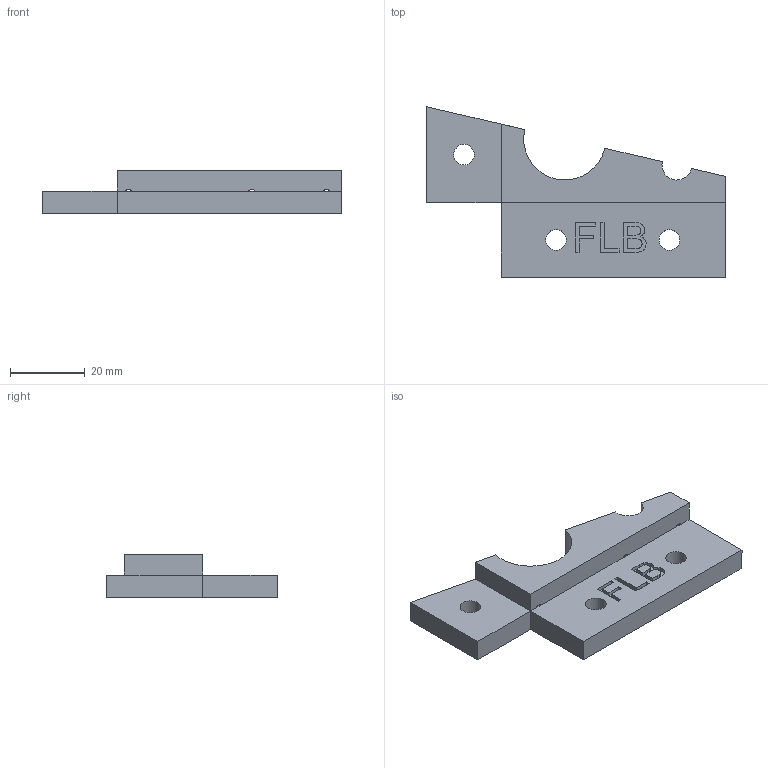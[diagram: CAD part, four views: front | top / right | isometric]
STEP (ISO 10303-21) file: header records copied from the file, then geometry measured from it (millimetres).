
FILE_DESCRIPTION(/* description */ (''),/* implementation_level */ '2;1');
FILE_NAME(/* name */ 'Z Frame Tie Front Left Bottom v1.step',/* time_stamp */ '2023-03-23T06:42:19-06:00',/* author */ (''),/* organization */ (''),/* preprocessor_version */ 'ST-DEVELOPER v19.2',/* originating_system */ 'Autodesk Translation Framework v11.17.0.187',/* authorisation */ '');
FILE_SCHEMA (('AUTOMOTIVE_DESIGN { 1 0 10303 214 3 1 1 }'));
Length unit declared in the file: millimetre
Products named in the file (2): Z Frame Tie Front Left Bottom; FL Bottom 1
Assembly tree (1 placements, depth 2):
  Z Frame Tie Front Left Bottom
    FL Bottom 1
Bounding box: 80 x 45.63 x 11.5 mm (x, y, z)
Volume: 16425.8 mm3; surface area: 7638.5 mm2
Topology: 1 solids, 1 shells, 79 faces, 216 edges, 141 vertices
Faces by surface type: plane 47, bspline 24, cylinder 8
Full cylindrical faces by diameter (mm): 2.8 x3, 5.5 x3
Entity records: 2784 total; most frequent: CARTESIAN_POINT 847, ORIENTED_EDGE 432, DIRECTION 306, EDGE_CURVE 216, LINE 146, VECTOR 146, VERTEX_POINT 141, EDGE_LOOP 93
